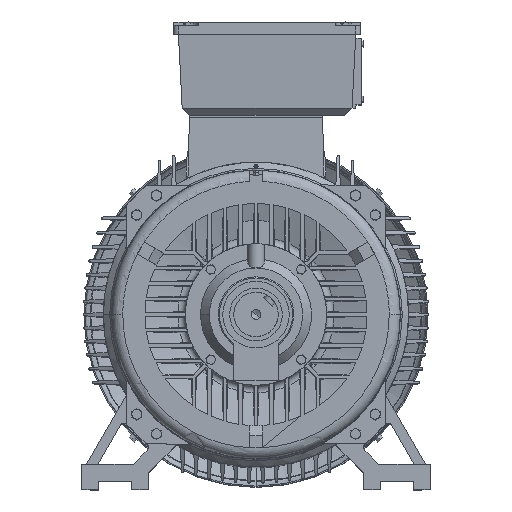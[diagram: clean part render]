
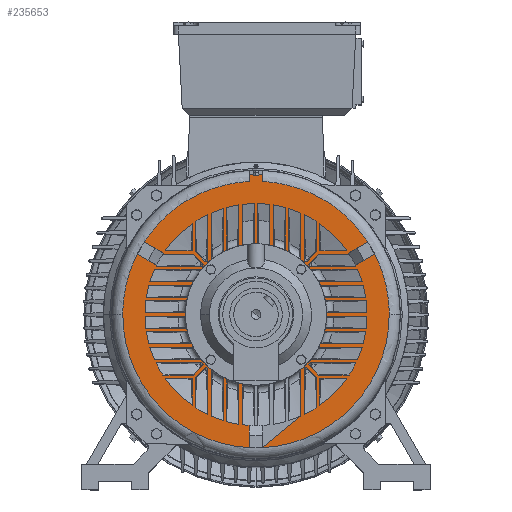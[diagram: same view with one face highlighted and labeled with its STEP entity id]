
A CAD part, top view. The second image highlights one B-rep face of the part: STEP entity #235653.
In plain terms, the highlighted planar face has unit normal (1, 0, 0) by its records, which use the part's own axes.
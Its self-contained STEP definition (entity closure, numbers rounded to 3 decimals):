
#4843 = ORIENTED_EDGE ( 'NONE', *, *, #290031, .T. ) ;
#4846 = ORIENTED_EDGE ( 'NONE', *, *, #115496, .T. ) ;
#4849 = ORIENTED_EDGE ( 'NONE', *, *, #114887, .T. ) ;
#4852 = ORIENTED_EDGE ( 'NONE', *, *, #115498, .T. ) ;
#4856 = ORIENTED_EDGE ( 'NONE', *, *, #115504, .T. ) ;
#4859 = ORIENTED_EDGE ( 'NONE', *, *, #115128, .T. ) ;
#4862 = ORIENTED_EDGE ( 'NONE', *, *, #115508, .F. ) ;
#4865 = ORIENTED_EDGE ( 'NONE', *, *, #115121, .F. ) ;
#4868 = ORIENTED_EDGE ( 'NONE', *, *, #114900, .T. ) ;
#4871 = ORIENTED_EDGE ( 'NONE', *, *, #115512, .T. ) ;
#4875 = ORIENTED_EDGE ( 'NONE', *, *, #114877, .T. ) ;
#4878 = ORIENTED_EDGE ( 'NONE', *, *, #115516, .T. ) ;
#4881 = ORIENTED_EDGE ( 'NONE', *, *, #290019, .T. ) ;
#4884 = ORIENTED_EDGE ( 'NONE', *, *, #115519, .T. ) ;
#101672 = CARTESIAN_POINT ( 'NONE',  ( 57., -81.317, 81.317 ) ) ;
#101675 = DIRECTION ( 'NONE',  ( -1., 0., 0. ) ) ;
#101678 = DIRECTION ( 'NONE',  ( 0., 0., -1. ) ) ;
#101719 = CARTESIAN_POINT ( 'NONE',  ( 57., 115., 0. ) ) ;
#101722 = DIRECTION ( 'NONE',  ( -1., 0., 0. ) ) ;
#101726 = DIRECTION ( 'NONE',  ( 0., 0., -1. ) ) ;
#101767 = CARTESIAN_POINT ( 'NONE',  ( 57., 81.317, 81.317 ) ) ;
#101771 = DIRECTION ( 'NONE',  ( -1., 0., 0. ) ) ;
#101774 = DIRECTION ( 'NONE',  ( 0., 0., -1. ) ) ;
#102826 = CARTESIAN_POINT ( 'NONE',  ( 57., 0., 0. ) ) ;
#102830 = DIRECTION ( 'NONE',  ( -1., 0., 0. ) ) ;
#102834 = DIRECTION ( 'NONE',  ( 0., 0., 1. ) ) ;
#102852 = CARTESIAN_POINT ( 'NONE',  ( 57., 0., 0. ) ) ;
#102855 = DIRECTION ( 'NONE',  ( -1., 0., 0. ) ) ;
#102858 = DIRECTION ( 'NONE',  ( 0., 0., 1. ) ) ;
#104350 = CARTESIAN_POINT ( 'NONE',  ( 57., -81.317, -81.317 ) ) ;
#104352 = DIRECTION ( 'NONE',  ( -1., 0., 0. ) ) ;
#104355 = DIRECTION ( 'NONE',  ( 0., 0., -1. ) ) ;
#104360 = CARTESIAN_POINT ( 'NONE',  ( 57., 115., 0. ) ) ;
#104363 = DIRECTION ( 'NONE',  ( -1., 0., 0. ) ) ;
#104366 = DIRECTION ( 'NONE',  ( 0., 0., -1. ) ) ;
#104371 = CARTESIAN_POINT ( 'NONE',  ( 57., 0., 0. ) ) ;
#104374 = DIRECTION ( 'NONE',  ( -1., 0., 0. ) ) ;
#104377 = DIRECTION ( 'NONE',  ( 0., 0., 1. ) ) ;
#104381 = CARTESIAN_POINT ( 'NONE',  ( 57., 0., 0. ) ) ;
#104383 = DIRECTION ( 'NONE',  ( -1., 0., 0. ) ) ;
#104386 = DIRECTION ( 'NONE',  ( 0., 0., 1. ) ) ;
#104392 = CARTESIAN_POINT ( 'NONE',  ( 57., 81.317, 81.317 ) ) ;
#104395 = DIRECTION ( 'NONE',  ( -1., 0., 0. ) ) ;
#104396 = DIRECTION ( 'NONE',  ( 0., 0., -1. ) ) ;
#104401 = CARTESIAN_POINT ( 'NONE',  ( 57., -81.317, 81.317 ) ) ;
#104403 = DIRECTION ( 'NONE',  ( -1., 0., 0. ) ) ;
#104406 = DIRECTION ( 'NONE',  ( 0., 0., -1. ) ) ;
#104412 = CARTESIAN_POINT ( 'NONE',  ( 57., 81.317, -81.317 ) ) ;
#104414 = DIRECTION ( 'NONE',  ( -1., 0., 0. ) ) ;
#104417 = DIRECTION ( 'NONE',  ( 0., 0., -1. ) ) ;
#114877 = EDGE_CURVE ( 'NONE', #224667, #224669, #136371, .T. ) ;
#114887 = EDGE_CURVE ( 'NONE', #224675, #224677, #136366, .T. ) ;
#114900 = EDGE_CURVE ( 'NONE', #224683, #224685, #136381, .T. ) ;
#115121 = EDGE_CURVE ( 'NONE', #224835, #224838, #136532, .T. ) ;
#115128 = EDGE_CURVE ( 'NONE', #224828, #224832, #136528, .T. ) ;
#115496 = EDGE_CURVE ( 'NONE', #224661, #224659, #136617, .T. ) ;
#115498 = EDGE_CURVE ( 'NONE', #224677, #224675, #136623, .T. ) ;
#115504 = EDGE_CURVE ( 'NONE', #224832, #224828, #136625, .T. ) ;
#115508 = EDGE_CURVE ( 'NONE', #224838, #224835, #136626, .T. ) ;
#115512 = EDGE_CURVE ( 'NONE', #224685, #224683, #136627, .T. ) ;
#115516 = EDGE_CURVE ( 'NONE', #224669, #224667, #136628, .T. ) ;
#115519 = EDGE_CURVE ( 'NONE', #224653, #224651, #136629, .T. ) ;
#123162 = EDGE_LOOP ( 'NONE', ( #4856, #4859 ) ) ;
#136366 = CIRCLE ( 'NONE', #325098, 6. ) ;
#136371 = CIRCLE ( 'NONE', #325059, 6. ) ;
#136381 = CIRCLE ( 'NONE', #325103, 6. ) ;
#136528 = CIRCLE ( 'NONE', #325165, 100. ) ;
#136532 = CIRCLE ( 'NONE', #325162, 253.213 ) ;
#136617 = CIRCLE ( 'NONE', #325355, 6. ) ;
#136623 = CIRCLE ( 'NONE', #325357, 6. ) ;
#136625 = CIRCLE ( 'NONE', #325359, 100. ) ;
#136626 = CIRCLE ( 'NONE', #325362, 253.213 ) ;
#136627 = CIRCLE ( 'NONE', #325364, 6. ) ;
#136628 = CIRCLE ( 'NONE', #325366, 6. ) ;
#136629 = CIRCLE ( 'NONE', #325368, 6. ) ;
#150074 = CARTESIAN_POINT ( 'NONE',  ( 57., 81.317, -87.317 ) ) ;
#150077 = CARTESIAN_POINT ( 'NONE',  ( 57., 81.317, -75.317 ) ) ;
#150088 = CARTESIAN_POINT ( 'NONE',  ( 57., -81.317, -87.317 ) ) ;
#150092 = CARTESIAN_POINT ( 'NONE',  ( 57., -81.317, -75.317 ) ) ;
#150102 = CARTESIAN_POINT ( 'NONE',  ( 57., -81.317, 75.317 ) ) ;
#150106 = CARTESIAN_POINT ( 'NONE',  ( 57., -81.317, 87.317 ) ) ;
#150118 = CARTESIAN_POINT ( 'NONE',  ( 57., 115., -6. ) ) ;
#150121 = CARTESIAN_POINT ( 'NONE',  ( 57., 115., 6. ) ) ;
#150131 = CARTESIAN_POINT ( 'NONE',  ( 57., 81.317, 75.317 ) ) ;
#150134 = CARTESIAN_POINT ( 'NONE',  ( 57., 81.317, 87.317 ) ) ;
#150337 = CARTESIAN_POINT ( 'NONE',  ( 57., 0., -100. ) ) ;
#150339 = CARTESIAN_POINT ( 'NONE',  ( 57., 0., 100. ) ) ;
#150343 = CARTESIAN_POINT ( 'NONE',  ( 57., 0., -253.213 ) ) ;
#150347 = CARTESIAN_POINT ( 'NONE',  ( 57., 0., 253.213 ) ) ;
#151356 = CARTESIAN_POINT ( 'NONE',  ( 57., 81.317, -81.317 ) ) ;
#151359 = DIRECTION ( 'NONE',  ( -1., 0., 0. ) ) ;
#151362 = DIRECTION ( 'NONE',  ( 0., 0., -1. ) ) ;
#151398 = CARTESIAN_POINT ( 'NONE',  ( 57., -81.317, -81.317 ) ) ;
#151401 = DIRECTION ( 'NONE',  ( -1., 0., 0. ) ) ;
#151404 = DIRECTION ( 'NONE',  ( 0., 0., -1. ) ) ;
#163112 = AXIS2_PLACEMENT_3D ( 'NONE', #151356, #151359, #151362 ) ;
#163116 = AXIS2_PLACEMENT_3D ( 'NONE', #151398, #151401, #151404 ) ;
#206988 = FACE_BOUND ( 'NONE', #238631, .T. ) ;
#206991 = FACE_BOUND ( 'NONE', #123162, .T. ) ;
#206993 = FACE_BOUND ( 'NONE', #238642, .T. ) ;
#206995 = FACE_OUTER_BOUND ( 'NONE', #238637, .T. ) ;
#206997 = FACE_BOUND ( 'NONE', #238648, .T. ) ;
#206999 = FACE_BOUND ( 'NONE', #238626, .T. ) ;
#207001 = FACE_BOUND ( 'NONE', #238674, .T. ) ;
#210955 = PLANE ( 'NONE',  #276153 ) ;
#210962 = DIRECTION ( 'NONE',  ( 1., 0., 0. ) ) ;
#210976 = CARTESIAN_POINT ( 'NONE',  ( 57., 0., 0. ) ) ;
#210979 = DIRECTION ( 'NONE',  ( 0., 0., -1. ) ) ;
#224651 = VERTEX_POINT ( 'NONE', #150074 ) ;
#224653 = VERTEX_POINT ( 'NONE', #150077 ) ;
#224659 = VERTEX_POINT ( 'NONE', #150088 ) ;
#224661 = VERTEX_POINT ( 'NONE', #150092 ) ;
#224667 = VERTEX_POINT ( 'NONE', #150102 ) ;
#224669 = VERTEX_POINT ( 'NONE', #150106 ) ;
#224675 = VERTEX_POINT ( 'NONE', #150118 ) ;
#224677 = VERTEX_POINT ( 'NONE', #150121 ) ;
#224683 = VERTEX_POINT ( 'NONE', #150131 ) ;
#224685 = VERTEX_POINT ( 'NONE', #150134 ) ;
#224828 = VERTEX_POINT ( 'NONE', #150337 ) ;
#224832 = VERTEX_POINT ( 'NONE', #150339 ) ;
#224835 = VERTEX_POINT ( 'NONE', #150343 ) ;
#224838 = VERTEX_POINT ( 'NONE', #150347 ) ;
#235653 = ADVANCED_FACE ( 'NONE', ( #206988, #206997, #206991, #206995, #206993, #206999, #207001 ), #210955, .T. ) ;
#238626 = EDGE_LOOP ( 'NONE', ( #4875, #4878 ) ) ;
#238631 = EDGE_LOOP ( 'NONE', ( #4843, #4846 ) ) ;
#238637 = EDGE_LOOP ( 'NONE', ( #4862, #4865 ) ) ;
#238642 = EDGE_LOOP ( 'NONE', ( #4868, #4871 ) ) ;
#238648 = EDGE_LOOP ( 'NONE', ( #4849, #4852 ) ) ;
#238674 = EDGE_LOOP ( 'NONE', ( #4881, #4884 ) ) ;
#276153 = AXIS2_PLACEMENT_3D ( 'NONE', #210976, #210962, #210979 ) ;
#290019 = EDGE_CURVE ( 'NONE', #224651, #224653, #346136, .T. ) ;
#290031 = EDGE_CURVE ( 'NONE', #224659, #224661, #346166, .T. ) ;
#325059 = AXIS2_PLACEMENT_3D ( 'NONE', #101672, #101675, #101678 ) ;
#325098 = AXIS2_PLACEMENT_3D ( 'NONE', #101719, #101722, #101726 ) ;
#325103 = AXIS2_PLACEMENT_3D ( 'NONE', #101767, #101771, #101774 ) ;
#325162 = AXIS2_PLACEMENT_3D ( 'NONE', #102826, #102830, #102834 ) ;
#325165 = AXIS2_PLACEMENT_3D ( 'NONE', #102852, #102855, #102858 ) ;
#325355 = AXIS2_PLACEMENT_3D ( 'NONE', #104350, #104352, #104355 ) ;
#325357 = AXIS2_PLACEMENT_3D ( 'NONE', #104360, #104363, #104366 ) ;
#325359 = AXIS2_PLACEMENT_3D ( 'NONE', #104371, #104374, #104377 ) ;
#325362 = AXIS2_PLACEMENT_3D ( 'NONE', #104381, #104383, #104386 ) ;
#325364 = AXIS2_PLACEMENT_3D ( 'NONE', #104392, #104395, #104396 ) ;
#325366 = AXIS2_PLACEMENT_3D ( 'NONE', #104401, #104403, #104406 ) ;
#325368 = AXIS2_PLACEMENT_3D ( 'NONE', #104412, #104414, #104417 ) ;
#346136 = CIRCLE ( 'NONE', #163112, 6. ) ;
#346166 = CIRCLE ( 'NONE', #163116, 6. ) ;
